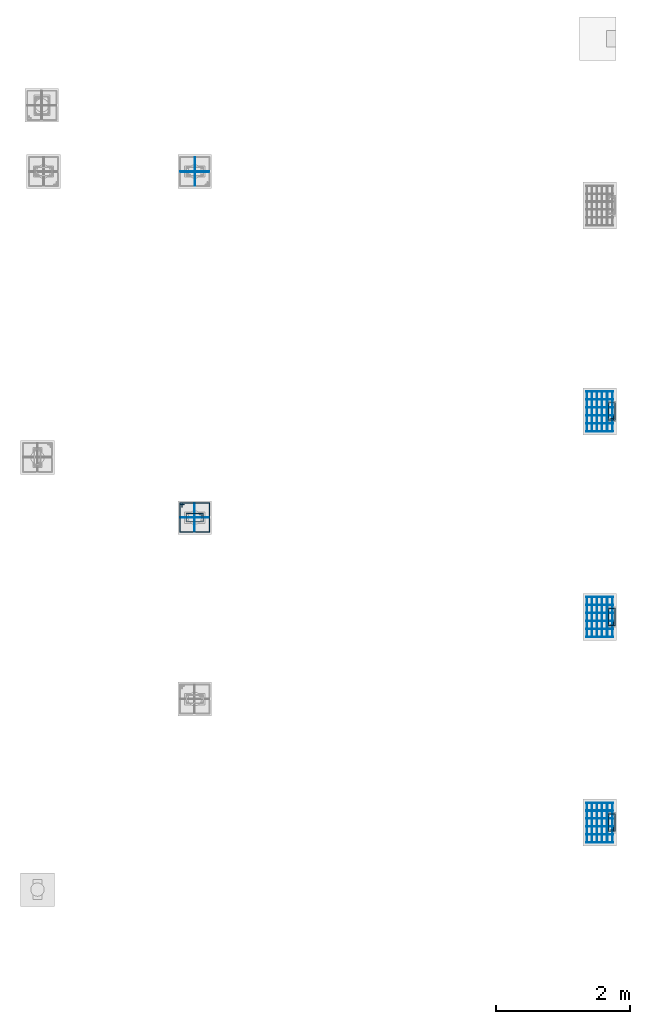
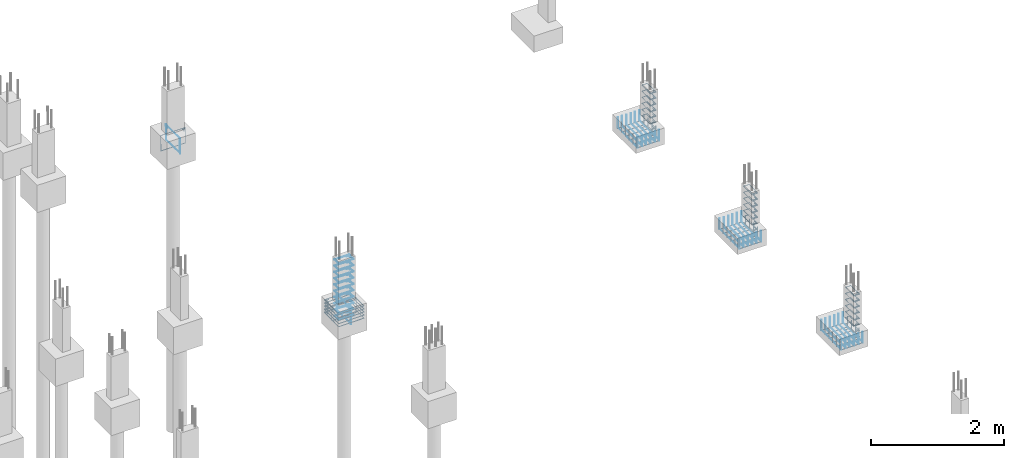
# One storey, part 97 of 119: 79 reinforcing bars.
"""IFC4 building model written with IfcOpenShell, lengths in centimetres."""

from ifc_helpers import new_model, entity, si_unit, derived_unit, frame, origin_with_axes, place, context, project, spatial, source, transform, mapped, element, save


model = new_model("IFC4")

# Units and contexts
model_context = context("Model", 3, precision=1e-05, world=origin_with_axes(), identifier="Body")
ifc_project = project(units=[si_unit("LENGTHUNIT", "METRE", prefix="CENTI"), si_unit("VOLUMEUNIT", "CUBIC_METRE"), si_unit("AREAUNIT", "SQUARE_METRE"), si_unit("POWERUNIT", "WATT"), si_unit("LUMINOUSFLUXUNIT", "LUMEN"), si_unit("ELECTRICCURRENTUNIT", "AMPERE"), si_unit("PRESSUREUNIT", "PASCAL", prefix="KILO"), si_unit("MASSUNIT", "GRAM", prefix="KILO"), si_unit("PLANEANGLEUNIT", "RADIAN"), derived_unit("VOLUMETRICFLOWRATEUNIT", [(si_unit("LENGTHUNIT", "METRE"), 3), (si_unit("TIMEUNIT", "SECOND"), -1)])], contexts=[model_context])

# Site, building, storey
site_placement = place(None, frame((-4000.0, 0.0, 0.0), z_axis=(0.0, 0.0, 1.0), x_axis=(1.0, 0.0, 0.0)))
site = spatial("IfcSite", under=ifc_project, at=site_placement, Name="PADRÃO")
building_placement = place(site_placement, frame((0.0, 0.0, -14.0)))
building = spatial("IfcBuilding", under=site, at=building_placement, Name="CRECHE PRÉ-ESCOLA TIPO 2")
storey_placement = place(building_placement, origin_with_axes())
storey = spatial("IfcBuildingStorey", under=building, at=storey_placement, Name="FUNDAÇÃO", CompositionType="ELEMENT", Elevation=-14.0)

# Reinforcing bars
shared_shape_1 = source(origin_with_axes(), model_context, "Body", "AdvancedSweptSolid", [
    entity("IfcSweptDiskSolid", entity("IfcCompositeCurve", [entity("IfcCompositeCurveSegment", "CONTINUOUS", True, entity("IfcPolyline", [entity("IfcCartesianPoint", [4.25, 21.75, 0.0]), entity("IfcCartesianPoint", [4.25, 27.75, 0.0])])), entity("IfcCompositeCurveSegment", "CONTINUOUS", True, entity("IfcPolyline", [entity("IfcCartesianPoint", [4.25, 27.75, 0.0]), entity("IfcCartesianPoint", [2.25, 27.75, 0.0])])), entity("IfcCompositeCurveSegment", "CONTINUOUS", True, entity("IfcPolyline", [entity("IfcCartesianPoint", [2.25, 27.75, 0.0]), entity("IfcCartesianPoint", [2.25, 2.25, 0.0])])), entity("IfcCompositeCurveSegment", "CONTINUOUS", True, entity("IfcPolyline", [entity("IfcCartesianPoint", [2.25, 2.25, 0.0]), entity("IfcCartesianPoint", [14.75, 2.25, 0.0])])), entity("IfcCompositeCurveSegment", "CONTINUOUS", True, entity("IfcPolyline", [entity("IfcCartesianPoint", [14.75, 2.25, 0.0]), entity("IfcCartesianPoint", [14.75, 27.75, -0.5])])), entity("IfcCompositeCurveSegment", "CONTINUOUS", True, entity("IfcPolyline", [entity("IfcCartesianPoint", [14.75, 27.75, -0.5]), entity("IfcCartesianPoint", [2.25, 27.75, -0.5])])), entity("IfcCompositeCurveSegment", "CONTINUOUS", True, entity("IfcPolyline", [entity("IfcCartesianPoint", [2.25, 27.75, -0.5]), entity("IfcCartesianPoint", [2.25, 25.75, -0.5])])), entity("IfcCompositeCurveSegment", "CONTINUOUS", True, entity("IfcPolyline", [entity("IfcCartesianPoint", [2.25, 25.75, -0.5]), entity("IfcCartesianPoint", [8.25, 25.75, -0.5])]))], False), 0.25),
])
for number, where, z_axis, x_axis, name in (
    (1, (3357.5, 1308.59, -28.75), (0.0, 0.0, 1.0), (0.0, -1.0, 0.0), "P113 - Estribo"),
    (2, (3357.5, 1308.59, -40.25), (0.0, 0.0, 1.0), (0.0, -1.0, 0.0), "P113 - Estribo"),
    (3, (3357.5, 1308.59, -51.75), (0.0, 0.0, 1.0), (0.0, -1.0, 0.0), "P113 - Estribo"),
    (4, (3357.5, 1308.59, -63.25), (0.0, 0.0, 1.0), (0.0, -1.0, 0.0), "P113 - Estribo"),
    (5, (3357.5, 1308.59, -74.75), (0.0, 0.0, 1.0), (0.0, -1.0, 0.0), "P113 - Estribo"),
    (6, (3357.5, 1308.59, -86.25), (0.0, 0.0, 1.0), (0.0, -1.0, 0.0), "P113 - Estribo"),
    (7, (3357.5, 1308.59, -97.75), (0.0, 0.0, 1.0), (0.0, -1.0, 0.0), "P113 - Estribo"),
    (8, (3357.5, 1308.59, -109.25), (0.0, 0.0, 1.0), (0.0, -1.0, 0.0), "P113 - Estribo"),
    (9, (3357.5, 1308.59, -5.75), (0.0, 0.0, 1.0), (0.0, -1.0, 0.0), "P113 - Estribo"),
    (10, (3357.5, 1308.59, -17.25), (0.0, 0.0, 1.0), (0.0, -1.0, 0.0), "P113 - Estribo"),
):
    element("IfcReinforcingBar", number, at=place(storey_placement, frame(where, z_axis=z_axis, x_axis=x_axis)), inside=storey, Name=name, BarLength=0.0, CrossSectionArea=1.9634954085e-05, NominalDiameter=0.5, PredefinedType="MAIN", context=model_context, shape_type="MappedRepresentation", body=[
        mapped(shared_shape_1, transform((0.0, 0.0, 0.0), scale=1.0)),
    ])
shared_shape_2 = source(origin_with_axes(), model_context, "Body", "AdvancedSweptSolid", [
    entity("IfcSweptDiskSolid", entity("IfcCompositeCurve", [entity("IfcCompositeCurveSegment", "CONTINUOUS", True, entity("IfcPolyline", [entity("IfcCartesianPoint", [3353.335, 1315.515, 0.0]), entity("IfcCartesianPoint", [3353.335, 1321.775, 0.0])])), entity("IfcCompositeCurveSegment", "CONTINUOUS", True, entity("IfcPolyline", [entity("IfcCartesianPoint", [3353.335, 1321.775, 0.0]), entity("IfcCartesianPoint", [3350.815, 1321.775, 0.0])])), entity("IfcCompositeCurveSegment", "CONTINUOUS", True, entity("IfcPolyline", [entity("IfcCartesianPoint", [3350.815, 1321.775, 0.0]), entity("IfcCartesianPoint", [3350.815, 1278.405, 0.0])])), entity("IfcCompositeCurveSegment", "CONTINUOUS", True, entity("IfcPolyline", [entity("IfcCartesianPoint", [3350.815, 1278.405, 0.0]), entity("IfcCartesianPoint", [3394.185, 1278.405, 0.63])])), entity("IfcCompositeCurveSegment", "CONTINUOUS", True, entity("IfcPolyline", [entity("IfcCartesianPoint", [3394.185, 1278.405, 0.63]), entity("IfcCartesianPoint", [3394.185, 1321.775, 0.63])])), entity("IfcCompositeCurveSegment", "CONTINUOUS", True, entity("IfcPolyline", [entity("IfcCartesianPoint", [3394.185, 1321.775, 0.63]), entity("IfcCartesianPoint", [3350.815, 1321.775, 0.63])])), entity("IfcCompositeCurveSegment", "CONTINUOUS", True, entity("IfcPolyline", [entity("IfcCartesianPoint", [3350.815, 1321.775, 0.63]), entity("IfcCartesianPoint", [3350.815, 1319.255, 0.63])])), entity("IfcCompositeCurveSegment", "CONTINUOUS", True, entity("IfcPolyline", [entity("IfcCartesianPoint", [3350.815, 1319.255, 0.63]), entity("IfcCartesianPoint", [3357.075, 1319.255, 0.63])]))], False), 0.315),
])
for number, where, z_axis, x_axis, name in (
    (11, (0.0, 0.0, -109.175), (0.0, 0.0, 1.0), (1.0, 0.0, 0.0), "P113 - Blocos (estribos)"),
    (12, (0.0, 0.0, -103.525), (0.0, 0.0, 1.0), (1.0, 0.0, 0.0), "P113 - Blocos (estribos)"),
    (13, (0.0, 0.0, -97.875), (0.0, 0.0, 1.0), (1.0, 0.0, 0.0), "P113 - Blocos (estribos)"),
    (14, (0.0, 0.0, -92.225), (0.0, 0.0, 1.0), (1.0, 0.0, 0.0), "P113 - Blocos (estribos)"),
    (15, (0.0, 0.0, -86.575), (0.0, 0.0, 1.0), (1.0, 0.0, 0.0), "P113 - Blocos (estribos)"),
):
    element("IfcReinforcingBar", number, at=place(storey_placement, frame(where, z_axis=z_axis, x_axis=x_axis)), inside=storey, Name=name, BarLength=0.0, CrossSectionArea=3.1172453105e-05, NominalDiameter=0.63, PredefinedType="MAIN", context=model_context, shape_type="MappedRepresentation", body=[
        mapped(shared_shape_2, transform((0.0, 0.0, 0.0), scale=1.0)),
    ])
shared_shape_3 = source(origin_with_axes(), model_context, "Body", "AdvancedSweptSolid", [
    entity("IfcSweptDiskSolid", entity("IfcCompositeCurve", [entity("IfcCompositeCurveSegment", "CONTINUOUS", True, entity("IfcPolyline", [entity("IfcCartesianPoint", [-15.12, -12.0, 0.0]), entity("IfcCartesianPoint", [-21.12, -12.0, 0.0])])), entity("IfcCompositeCurveSegment", "CONTINUOUS", True, entity("IfcPolyline", [entity("IfcCartesianPoint", [-21.12, -12.0, 0.0]), entity("IfcCartesianPoint", [-21.12, -14.0, 0.0])])), entity("IfcCompositeCurveSegment", "CONTINUOUS", True, entity("IfcPolyline", [entity("IfcCartesianPoint", [-21.12, -14.0, 0.0]), entity("IfcCartesianPoint", [21.12, -14.0, 0.0])])), entity("IfcCompositeCurveSegment", "CONTINUOUS", True, entity("IfcPolyline", [entity("IfcCartesianPoint", [21.12, -14.0, 0.0]), entity("IfcCartesianPoint", [21.12, 14.0, 0.5])])), entity("IfcCompositeCurveSegment", "CONTINUOUS", True, entity("IfcPolyline", [entity("IfcCartesianPoint", [21.12, 14.0, 0.5]), entity("IfcCartesianPoint", [-21.12, 14.0, 0.5])])), entity("IfcCompositeCurveSegment", "CONTINUOUS", True, entity("IfcPolyline", [entity("IfcCartesianPoint", [-21.12, 14.0, 0.5]), entity("IfcCartesianPoint", [-21.12, -14.0, 0.5])])), entity("IfcCompositeCurveSegment", "CONTINUOUS", True, entity("IfcPolyline", [entity("IfcCartesianPoint", [-21.12, -14.0, 0.5]), entity("IfcCartesianPoint", [-19.12, -14.0, 0.5])])), entity("IfcCompositeCurveSegment", "CONTINUOUS", True, entity("IfcPolyline", [entity("IfcCartesianPoint", [-19.12, -14.0, 0.5]), entity("IfcCartesianPoint", [-19.12, -8.0, 0.5])]))], False), 0.25),
])
reinforcing_bar_1_placement = place(storey_placement, frame((3372.5, 1300.09, -97.75), z_axis=(0.0, 1.0, 0.0), x_axis=(1.0, 0.0, 0.0)))
element("IfcReinforcingBar", 16, at=reinforcing_bar_1_placement, inside=storey, Name="P113 - Blocos (estribos)", BarLength=0.0, CrossSectionArea=1.9634954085e-05, NominalDiameter=0.5, PredefinedType="MAIN", context=model_context, shape_type="MappedRepresentation", body=[
    mapped(shared_shape_3, transform((0.0, 0.0, 0.0), scale=1.0)),
])
shared_shape_4 = source(origin_with_axes(), model_context, "Body", "AdvancedSweptSolid", [
    entity("IfcSweptDiskSolid", entity("IfcCompositeCurve", [entity("IfcCompositeCurveSegment", "CONTINUOUS", True, entity("IfcPolyline", [entity("IfcCartesianPoint", [-15.12, -12.0, 0.0]), entity("IfcCartesianPoint", [-21.12, -12.0, 0.0])])), entity("IfcCompositeCurveSegment", "CONTINUOUS", True, entity("IfcPolyline", [entity("IfcCartesianPoint", [-21.12, -12.0, 0.0]), entity("IfcCartesianPoint", [-21.12, -14.0, 0.0])])), entity("IfcCompositeCurveSegment", "CONTINUOUS", True, entity("IfcPolyline", [entity("IfcCartesianPoint", [-21.12, -14.0, 0.0]), entity("IfcCartesianPoint", [21.12, -14.0, 0.0])])), entity("IfcCompositeCurveSegment", "CONTINUOUS", True, entity("IfcPolyline", [entity("IfcCartesianPoint", [21.12, -14.0, 0.0]), entity("IfcCartesianPoint", [21.12, 14.0, 0.5])])), entity("IfcCompositeCurveSegment", "CONTINUOUS", True, entity("IfcPolyline", [entity("IfcCartesianPoint", [21.12, 14.0, 0.5]), entity("IfcCartesianPoint", [-21.12, 14.0, 0.5])])), entity("IfcCompositeCurveSegment", "CONTINUOUS", True, entity("IfcPolyline", [entity("IfcCartesianPoint", [-21.12, 14.0, 0.5]), entity("IfcCartesianPoint", [-21.12, -14.0, 0.5])])), entity("IfcCompositeCurveSegment", "CONTINUOUS", True, entity("IfcPolyline", [entity("IfcCartesianPoint", [-21.12, -14.0, 0.5]), entity("IfcCartesianPoint", [-19.12, -14.0, 0.5])])), entity("IfcCompositeCurveSegment", "CONTINUOUS", True, entity("IfcPolyline", [entity("IfcCartesianPoint", [-19.12, -14.0, 0.5]), entity("IfcCartesianPoint", [-19.12, -8.0, 0.5])]))], False), 0.25),
])
reinforcing_bar_2_placement = place(storey_placement, frame((3372.5, 1300.09, -97.75), z_axis=(-1.0, 0.0, 0.0), x_axis=(0.0, 1.0, 0.0)))
element("IfcReinforcingBar", 17, at=reinforcing_bar_2_placement, inside=storey, Name="P113 - Blocos (estribos)", BarLength=0.0, CrossSectionArea=1.9634954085e-05, NominalDiameter=0.5, PredefinedType="MAIN", context=model_context, shape_type="MappedRepresentation", body=[
    mapped(shared_shape_4, transform((0.0, 0.0, 0.0), scale=1.0)),
])
shared_shape_5 = source(origin_with_axes(), model_context, "Body", "AdvancedSweptSolid", [
    entity("IfcSweptDiskSolid", entity("IfcCompositeCurve", [entity("IfcCompositeCurveSegment", "CONTINUOUS", True, entity("IfcPolyline", [entity("IfcCartesianPoint", [4.25, 21.75, 0.0]), entity("IfcCartesianPoint", [4.25, 27.75, 0.0])])), entity("IfcCompositeCurveSegment", "CONTINUOUS", True, entity("IfcPolyline", [entity("IfcCartesianPoint", [4.25, 27.75, 0.0]), entity("IfcCartesianPoint", [2.25, 27.75, 0.0])])), entity("IfcCompositeCurveSegment", "CONTINUOUS", True, entity("IfcPolyline", [entity("IfcCartesianPoint", [2.25, 27.75, 0.0]), entity("IfcCartesianPoint", [2.25, 2.25, 0.0])])), entity("IfcCompositeCurveSegment", "CONTINUOUS", True, entity("IfcPolyline", [entity("IfcCartesianPoint", [2.25, 2.25, 0.0]), entity("IfcCartesianPoint", [11.75, 2.25, 0.0])])), entity("IfcCompositeCurveSegment", "CONTINUOUS", True, entity("IfcPolyline", [entity("IfcCartesianPoint", [11.75, 2.25, 0.0]), entity("IfcCartesianPoint", [11.75, 27.75, -0.5])])), entity("IfcCompositeCurveSegment", "CONTINUOUS", True, entity("IfcPolyline", [entity("IfcCartesianPoint", [11.75, 27.75, -0.5]), entity("IfcCartesianPoint", [2.25, 27.75, -0.5])])), entity("IfcCompositeCurveSegment", "CONTINUOUS", True, entity("IfcPolyline", [entity("IfcCartesianPoint", [2.25, 27.75, -0.5]), entity("IfcCartesianPoint", [2.25, 25.75, -0.5])])), entity("IfcCompositeCurveSegment", "CONTINUOUS", True, entity("IfcPolyline", [entity("IfcCartesianPoint", [2.25, 25.75, -0.5]), entity("IfcCartesianPoint", [8.25, 25.75, -0.5])]))], False), 0.25),
])
for number, where, z_axis, x_axis, name in (
    (18, (4000.0, 1473.11, -5.5625), (0.0, 0.0, 1.0), (-1.0, 0.0, 0.0), "P103 - Estribo"),
    (19, (4000.0, 1473.11, -16.6875), (0.0, 0.0, 1.0), (-1.0, 0.0, 0.0), "P103 - Estribo"),
    (20, (4000.0, 1473.11, -27.8125), (0.0, 0.0, 1.0), (-1.0, 0.0, 0.0), "P103 - Estribo"),
    (21, (4000.0, 1473.11, -38.9375), (0.0, 0.0, 1.0), (-1.0, 0.0, 0.0), "P103 - Estribo"),
    (22, (4000.0, 1473.11, -50.0625), (0.0, 0.0, 1.0), (-1.0, 0.0, 0.0), "P103 - Estribo"),
    (23, (4000.0, 1473.11, -61.1875), (0.0, 0.0, 1.0), (-1.0, 0.0, 0.0), "P103 - Estribo"),
    (24, (4000.0, 1473.11, -72.3125), (0.0, 0.0, 1.0), (-1.0, 0.0, 0.0), "P103 - Estribo"),
    (25, (4000.0, 1473.11, -83.4375), (0.0, 0.0, 1.0), (-1.0, 0.0, 0.0), "P103 - Estribo"),
):
    element("IfcReinforcingBar", number, at=place(storey_placement, frame(where, z_axis=z_axis, x_axis=x_axis)), inside=storey, Name=name, BarLength=0.0, CrossSectionArea=1.9634954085e-05, NominalDiameter=0.5, PredefinedType="MAIN", context=model_context, shape_type="MappedRepresentation", body=[
        mapped(shared_shape_5, transform((0.0, 0.0, 0.0), scale=1.0)),
    ])
shared_shape_6 = source(origin_with_axes(), model_context, "Body", "AdvancedSweptSolid", [
    entity("IfcSweptDiskSolid", entity("IfcCompositeCurve", [entity("IfcCompositeCurveSegment", "CONTINUOUS", True, entity("IfcPolyline", [entity("IfcCartesianPoint", [0.0, 0.0, 19.6]), entity("IfcCartesianPoint", [0.0, 0.0, 0.0])])), entity("IfcCompositeCurveSegment", "CONTINUOUS", True, entity("IfcPolyline", [entity("IfcCartesianPoint", [0.0, 0.0, 0.0]), entity("IfcCartesianPoint", [39.2, 0.0, 0.0])])), entity("IfcCompositeCurveSegment", "CONTINUOUS", True, entity("IfcPolyline", [entity("IfcCartesianPoint", [39.2, 0.0, 0.0]), entity("IfcCartesianPoint", [39.2, 0.0, 19.6])]))], False), 0.4),
])
for number, where, z_axis, x_axis, name in (
    (26, (3994.6, 1428.51, -83.6), (0.0, 0.0, 1.0), (-1.0, 0.0, 0.0), "P103 - Sapatas (inferior)"),
    (27, (3994.6, 1487.71, -83.6), (0.0, 0.0, 1.0), (-1.0, 0.0, 0.0), "P103 - Sapatas (inferior)"),
    (28, (3994.6, 1475.87, -83.6), (0.0, 0.0, 1.0), (-1.0, 0.0, 0.0), "P103 - Sapatas (inferior)"),
    (29, (3994.6, 1464.03, -83.6), (0.0, 0.0, 1.0), (-1.0, 0.0, 0.0), "P103 - Sapatas (inferior)"),
    (30, (3994.6, 1452.19, -83.6), (0.0, 0.0, 1.0), (-1.0, 0.0, 0.0), "P103 - Sapatas (inferior)"),
    (31, (3994.6, 1440.35, -83.6), (0.0, 0.0, 1.0), (-1.0, 0.0, 0.0), "P103 - Sapatas (inferior)"),
):
    element("IfcReinforcingBar", number, at=place(storey_placement, frame(where, z_axis=z_axis, x_axis=x_axis)), inside=storey, Name=name, BarLength=0.0, CrossSectionArea=5.0265482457e-05, NominalDiameter=0.8, PredefinedType="MAIN", context=model_context, shape_type="MappedRepresentation", body=[
        mapped(shared_shape_6, transform((0.0, 0.0, 0.0), scale=1.0)),
    ])
shared_shape_7 = source(origin_with_axes(), model_context, "Body", "AdvancedSweptSolid", [
    entity("IfcSweptDiskSolid", entity("IfcCompositeCurve", [entity("IfcCompositeCurveSegment", "CONTINUOUS", True, entity("IfcPolyline", [entity("IfcCartesianPoint", [0.0, 0.0, 18.8]), entity("IfcCartesianPoint", [0.0, 0.0, 0.0])])), entity("IfcCompositeCurveSegment", "CONTINUOUS", True, entity("IfcPolyline", [entity("IfcCartesianPoint", [0.0, 0.0, 0.0]), entity("IfcCartesianPoint", [0.0, 59.2, 0.0])])), entity("IfcCompositeCurveSegment", "CONTINUOUS", True, entity("IfcPolyline", [entity("IfcCartesianPoint", [0.0, 59.2, 0.0]), entity("IfcCartesianPoint", [0.0, 59.2, 18.8])]))], False), 0.4),
])
for number, where, z_axis, x_axis, name in (
    (32, (3993.8, 1487.71, -82.8), (0.0, 0.0, 1.0), (-1.0, 0.0, 0.0), "P103 - Sapatas (inferior)"),
    (33, (3986.28, 1487.71, -82.8), (0.0, 0.0, 1.0), (-1.0, 0.0, 0.0), "P103 - Sapatas (inferior)"),
    (34, (3978.76, 1487.71, -82.8), (0.0, 0.0, 1.0), (-1.0, 0.0, 0.0), "P103 - Sapatas (inferior)"),
    (35, (3971.24, 1487.71, -82.8), (0.0, 0.0, 1.0), (-1.0, 0.0, 0.0), "P103 - Sapatas (inferior)"),
    (36, (3963.72, 1487.71, -82.8), (0.0, 0.0, 1.0), (-1.0, 0.0, 0.0), "P103 - Sapatas (inferior)"),
    (37, (3956.2, 1487.71, -82.8), (0.0, 0.0, 1.0), (-1.0, 0.0, 0.0), "P103 - Sapatas (inferior)"),
):
    element("IfcReinforcingBar", number, at=place(storey_placement, frame(where, z_axis=z_axis, x_axis=x_axis)), inside=storey, Name=name, BarLength=0.0, CrossSectionArea=5.0265482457e-05, NominalDiameter=0.8, PredefinedType="MAIN", context=model_context, shape_type="MappedRepresentation", body=[
        mapped(shared_shape_7, transform((0.0, 0.0, 0.0), scale=1.0)),
    ])
shared_shape_8 = source(origin_with_axes(), model_context, "Body", "AdvancedSweptSolid", [
    entity("IfcSweptDiskSolid", entity("IfcCompositeCurve", [entity("IfcCompositeCurveSegment", "CONTINUOUS", True, entity("IfcPolyline", [entity("IfcCartesianPoint", [4.25, 21.75, 0.0]), entity("IfcCartesianPoint", [4.25, 27.75, 0.0])])), entity("IfcCompositeCurveSegment", "CONTINUOUS", True, entity("IfcPolyline", [entity("IfcCartesianPoint", [4.25, 27.75, 0.0]), entity("IfcCartesianPoint", [2.25, 27.75, 0.0])])), entity("IfcCompositeCurveSegment", "CONTINUOUS", True, entity("IfcPolyline", [entity("IfcCartesianPoint", [2.25, 27.75, 0.0]), entity("IfcCartesianPoint", [2.25, 2.25, 0.0])])), entity("IfcCompositeCurveSegment", "CONTINUOUS", True, entity("IfcPolyline", [entity("IfcCartesianPoint", [2.25, 2.25, 0.0]), entity("IfcCartesianPoint", [11.75, 2.25, 0.0])])), entity("IfcCompositeCurveSegment", "CONTINUOUS", True, entity("IfcPolyline", [entity("IfcCartesianPoint", [11.75, 2.25, 0.0]), entity("IfcCartesianPoint", [11.75, 27.75, -0.5])])), entity("IfcCompositeCurveSegment", "CONTINUOUS", True, entity("IfcPolyline", [entity("IfcCartesianPoint", [11.75, 27.75, -0.5]), entity("IfcCartesianPoint", [2.25, 27.75, -0.5])])), entity("IfcCompositeCurveSegment", "CONTINUOUS", True, entity("IfcPolyline", [entity("IfcCartesianPoint", [2.25, 27.75, -0.5]), entity("IfcCartesianPoint", [2.25, 25.75, -0.5])])), entity("IfcCompositeCurveSegment", "CONTINUOUS", True, entity("IfcPolyline", [entity("IfcCartesianPoint", [2.25, 25.75, -0.5]), entity("IfcCartesianPoint", [8.25, 25.75, -0.5])]))], False), 0.25),
])
for number, where, z_axis, x_axis, name in (
    (38, (4000.0, 1167.11, -27.8125), (0.0, 0.0, 1.0), (-1.0, 0.0, 0.0), "P115 - Estribo"),
    (39, (4000.0, 1167.11, -83.4375), (0.0, 0.0, 1.0), (-1.0, 0.0, 0.0), "P115 - Estribo"),
    (40, (4000.0, 1167.11, -72.3125), (0.0, 0.0, 1.0), (-1.0, 0.0, 0.0), "P115 - Estribo"),
    (41, (4000.0, 1167.11, -5.5625), (0.0, 0.0, 1.0), (-1.0, 0.0, 0.0), "P115 - Estribo"),
    (42, (4000.0, 1167.11, -16.6875), (0.0, 0.0, 1.0), (-1.0, 0.0, 0.0), "P115 - Estribo"),
    (43, (4000.0, 1167.11, -61.1875), (0.0, 0.0, 1.0), (-1.0, 0.0, 0.0), "P115 - Estribo"),
    (44, (4000.0, 1167.11, -50.0625), (0.0, 0.0, 1.0), (-1.0, 0.0, 0.0), "P115 - Estribo"),
    (45, (4000.0, 1167.11, -38.9375), (0.0, 0.0, 1.0), (-1.0, 0.0, 0.0), "P115 - Estribo"),
):
    element("IfcReinforcingBar", number, at=place(storey_placement, frame(where, z_axis=z_axis, x_axis=x_axis)), inside=storey, Name=name, BarLength=0.0, CrossSectionArea=1.9634954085e-05, NominalDiameter=0.5, PredefinedType="MAIN", context=model_context, shape_type="MappedRepresentation", body=[
        mapped(shared_shape_8, transform((0.0, 0.0, 0.0), scale=1.0)),
    ])
shared_shape_9 = source(origin_with_axes(), model_context, "Body", "AdvancedSweptSolid", [
    entity("IfcSweptDiskSolid", entity("IfcCompositeCurve", [entity("IfcCompositeCurveSegment", "CONTINUOUS", True, entity("IfcPolyline", [entity("IfcCartesianPoint", [0.0, 0.0, 19.6]), entity("IfcCartesianPoint", [0.0, 0.0, 0.0])])), entity("IfcCompositeCurveSegment", "CONTINUOUS", True, entity("IfcPolyline", [entity("IfcCartesianPoint", [0.0, 0.0, 0.0]), entity("IfcCartesianPoint", [39.2, 0.0, 0.0])])), entity("IfcCompositeCurveSegment", "CONTINUOUS", True, entity("IfcPolyline", [entity("IfcCartesianPoint", [39.2, 0.0, 0.0]), entity("IfcCartesianPoint", [39.2, 0.0, 19.6])]))], False), 0.4),
])
for number, where, z_axis, x_axis, name in (
    (46, (3994.6, 1181.71, -83.6), (0.0, 0.0, 1.0), (-1.0, 0.0, 0.0), "P115 - Sapatas (inferior)"),
    (47, (3994.6, 1122.51, -83.6), (0.0, 0.0, 1.0), (-1.0, 0.0, 0.0), "P115 - Sapatas (inferior)"),
    (48, (3994.6, 1134.35, -83.6), (0.0, 0.0, 1.0), (-1.0, 0.0, 0.0), "P115 - Sapatas (inferior)"),
    (49, (3994.6, 1146.19, -83.6), (0.0, 0.0, 1.0), (-1.0, 0.0, 0.0), "P115 - Sapatas (inferior)"),
    (50, (3994.6, 1158.03, -83.6), (0.0, 0.0, 1.0), (-1.0, 0.0, 0.0), "P115 - Sapatas (inferior)"),
    (51, (3994.6, 1169.87, -83.6), (0.0, 0.0, 1.0), (-1.0, 0.0, 0.0), "P115 - Sapatas (inferior)"),
):
    element("IfcReinforcingBar", number, at=place(storey_placement, frame(where, z_axis=z_axis, x_axis=x_axis)), inside=storey, Name=name, BarLength=0.0, CrossSectionArea=5.0265482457e-05, NominalDiameter=0.8, PredefinedType="MAIN", context=model_context, shape_type="MappedRepresentation", body=[
        mapped(shared_shape_9, transform((0.0, 0.0, 0.0), scale=1.0)),
    ])
shared_shape_10 = source(origin_with_axes(), model_context, "Body", "AdvancedSweptSolid", [
    entity("IfcSweptDiskSolid", entity("IfcCompositeCurve", [entity("IfcCompositeCurveSegment", "CONTINUOUS", True, entity("IfcPolyline", [entity("IfcCartesianPoint", [0.0, 0.0, 18.8]), entity("IfcCartesianPoint", [0.0, 0.0, 0.0])])), entity("IfcCompositeCurveSegment", "CONTINUOUS", True, entity("IfcPolyline", [entity("IfcCartesianPoint", [0.0, 0.0, 0.0]), entity("IfcCartesianPoint", [0.0, 59.2, 0.0])])), entity("IfcCompositeCurveSegment", "CONTINUOUS", True, entity("IfcPolyline", [entity("IfcCartesianPoint", [0.0, 59.2, 0.0]), entity("IfcCartesianPoint", [0.0, 59.2, 18.8])]))], False), 0.4),
])
for number, where, z_axis, x_axis, name in (
    (52, (3986.28, 1181.71, -82.8), (0.0, 0.0, 1.0), (-1.0, 0.0, 0.0), "P115 - Sapatas (inferior)"),
    (53, (3956.2, 1181.71, -82.8), (0.0, 0.0, 1.0), (-1.0, 0.0, 0.0), "P115 - Sapatas (inferior)"),
    (54, (3993.8, 1181.71, -82.8), (0.0, 0.0, 1.0), (-1.0, 0.0, 0.0), "P115 - Sapatas (inferior)"),
    (55, (3971.24, 1181.71, -82.8), (0.0, 0.0, 1.0), (-1.0, 0.0, 0.0), "P115 - Sapatas (inferior)"),
    (56, (3978.76, 1181.71, -82.8), (0.0, 0.0, 1.0), (-1.0, 0.0, 0.0), "P115 - Sapatas (inferior)"),
    (57, (3963.72, 1181.71, -82.8), (0.0, 0.0, 1.0), (-1.0, 0.0, 0.0), "P115 - Sapatas (inferior)"),
):
    element("IfcReinforcingBar", number, at=place(storey_placement, frame(where, z_axis=z_axis, x_axis=x_axis)), inside=storey, Name=name, BarLength=0.0, CrossSectionArea=5.0265482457e-05, NominalDiameter=0.8, PredefinedType="MAIN", context=model_context, shape_type="MappedRepresentation", body=[
        mapped(shared_shape_10, transform((0.0, 0.0, 0.0), scale=1.0)),
    ])
shared_shape_11 = source(origin_with_axes(), model_context, "Body", "AdvancedSweptSolid", [
    entity("IfcSweptDiskSolid", entity("IfcCompositeCurve", [entity("IfcCompositeCurveSegment", "CONTINUOUS", True, entity("IfcPolyline", [entity("IfcCartesianPoint", [4.25, 21.75, 0.0]), entity("IfcCartesianPoint", [4.25, 27.75, 0.0])])), entity("IfcCompositeCurveSegment", "CONTINUOUS", True, entity("IfcPolyline", [entity("IfcCartesianPoint", [4.25, 27.75, 0.0]), entity("IfcCartesianPoint", [2.25, 27.75, 0.0])])), entity("IfcCompositeCurveSegment", "CONTINUOUS", True, entity("IfcPolyline", [entity("IfcCartesianPoint", [2.25, 27.75, 0.0]), entity("IfcCartesianPoint", [2.25, 2.25, 0.0])])), entity("IfcCompositeCurveSegment", "CONTINUOUS", True, entity("IfcPolyline", [entity("IfcCartesianPoint", [2.25, 2.25, 0.0]), entity("IfcCartesianPoint", [11.75, 2.25, 0.0])])), entity("IfcCompositeCurveSegment", "CONTINUOUS", True, entity("IfcPolyline", [entity("IfcCartesianPoint", [11.75, 2.25, 0.0]), entity("IfcCartesianPoint", [11.75, 27.75, -0.5])])), entity("IfcCompositeCurveSegment", "CONTINUOUS", True, entity("IfcPolyline", [entity("IfcCartesianPoint", [11.75, 27.75, -0.5]), entity("IfcCartesianPoint", [2.25, 27.75, -0.5])])), entity("IfcCompositeCurveSegment", "CONTINUOUS", True, entity("IfcPolyline", [entity("IfcCartesianPoint", [2.25, 27.75, -0.5]), entity("IfcCartesianPoint", [2.25, 25.75, -0.5])])), entity("IfcCompositeCurveSegment", "CONTINUOUS", True, entity("IfcPolyline", [entity("IfcCartesianPoint", [2.25, 25.75, -0.5]), entity("IfcCartesianPoint", [8.25, 25.75, -0.5])]))], False), 0.25),
])
for number, where, z_axis, x_axis, name in (
    (58, (4000.0, 861.11, -16.6875), (0.0, 0.0, 1.0), (-1.0, 0.0, 0.0), "P130 - Estribo"),
    (59, (4000.0, 861.11, -27.8125), (0.0, 0.0, 1.0), (-1.0, 0.0, 0.0), "P130 - Estribo"),
    (60, (4000.0, 861.11, -38.9375), (0.0, 0.0, 1.0), (-1.0, 0.0, 0.0), "P130 - Estribo"),
    (61, (4000.0, 861.11, -50.0625), (0.0, 0.0, 1.0), (-1.0, 0.0, 0.0), "P130 - Estribo"),
    (62, (4000.0, 861.11, -61.1875), (0.0, 0.0, 1.0), (-1.0, 0.0, 0.0), "P130 - Estribo"),
    (63, (4000.0, 861.11, -5.5625), (0.0, 0.0, 1.0), (-1.0, 0.0, 0.0), "P130 - Estribo"),
    (64, (4000.0, 861.11, -72.3125), (0.0, 0.0, 1.0), (-1.0, 0.0, 0.0), "P130 - Estribo"),
    (65, (4000.0, 861.11, -83.4375), (0.0, 0.0, 1.0), (-1.0, 0.0, 0.0), "P130 - Estribo"),
):
    element("IfcReinforcingBar", number, at=place(storey_placement, frame(where, z_axis=z_axis, x_axis=x_axis)), inside=storey, Name=name, BarLength=0.0, CrossSectionArea=1.9634954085e-05, NominalDiameter=0.5, PredefinedType="MAIN", context=model_context, shape_type="MappedRepresentation", body=[
        mapped(shared_shape_11, transform((0.0, 0.0, 0.0), scale=1.0)),
    ])
shared_shape_12 = source(origin_with_axes(), model_context, "Body", "AdvancedSweptSolid", [
    entity("IfcSweptDiskSolid", entity("IfcCompositeCurve", [entity("IfcCompositeCurveSegment", "CONTINUOUS", True, entity("IfcPolyline", [entity("IfcCartesianPoint", [0.0, 0.0, 19.6]), entity("IfcCartesianPoint", [0.0, 0.0, 0.0])])), entity("IfcCompositeCurveSegment", "CONTINUOUS", True, entity("IfcPolyline", [entity("IfcCartesianPoint", [0.0, 0.0, 0.0]), entity("IfcCartesianPoint", [39.2, 0.0, 0.0])])), entity("IfcCompositeCurveSegment", "CONTINUOUS", True, entity("IfcPolyline", [entity("IfcCartesianPoint", [39.2, 0.0, 0.0]), entity("IfcCartesianPoint", [39.2, 0.0, 19.6])]))], False), 0.4),
])
for number, where, z_axis, x_axis, name in (
    (66, (3994.6, 816.51, -83.6), (0.0, 0.0, 1.0), (-1.0, 0.0, 0.0), "P130 - Sapatas (inferior)"),
    (67, (3994.6, 840.19, -83.6), (0.0, 0.0, 1.0), (-1.0, 0.0, 0.0), "P130 - Sapatas (inferior)"),
    (68, (3994.6, 863.87, -83.6), (0.0, 0.0, 1.0), (-1.0, 0.0, 0.0), "P130 - Sapatas (inferior)"),
    (69, (3994.6, 875.71, -83.6), (0.0, 0.0, 1.0), (-1.0, 0.0, 0.0), "P130 - Sapatas (inferior)"),
    (70, (3994.6, 828.35, -83.6), (0.0, 0.0, 1.0), (-1.0, 0.0, 0.0), "P130 - Sapatas (inferior)"),
    (71, (3994.6, 852.03, -83.6), (0.0, 0.0, 1.0), (-1.0, 0.0, 0.0), "P130 - Sapatas (inferior)"),
):
    element("IfcReinforcingBar", number, at=place(storey_placement, frame(where, z_axis=z_axis, x_axis=x_axis)), inside=storey, Name=name, BarLength=0.0, CrossSectionArea=5.0265482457e-05, NominalDiameter=0.8, PredefinedType="MAIN", context=model_context, shape_type="MappedRepresentation", body=[
        mapped(shared_shape_12, transform((0.0, 0.0, 0.0), scale=1.0)),
    ])
shared_shape_13 = source(origin_with_axes(), model_context, "Body", "AdvancedSweptSolid", [
    entity("IfcSweptDiskSolid", entity("IfcCompositeCurve", [entity("IfcCompositeCurveSegment", "CONTINUOUS", True, entity("IfcPolyline", [entity("IfcCartesianPoint", [0.0, 0.0, 18.8]), entity("IfcCartesianPoint", [0.0, 0.0, 0.0])])), entity("IfcCompositeCurveSegment", "CONTINUOUS", True, entity("IfcPolyline", [entity("IfcCartesianPoint", [0.0, 0.0, 0.0]), entity("IfcCartesianPoint", [0.0, 59.2, 0.0])])), entity("IfcCompositeCurveSegment", "CONTINUOUS", True, entity("IfcPolyline", [entity("IfcCartesianPoint", [0.0, 59.2, 0.0]), entity("IfcCartesianPoint", [0.0, 59.2, 18.8])]))], False), 0.4),
])
for number, where, z_axis, x_axis, name in (
    (72, (3963.72, 875.71, -82.8), (0.0, 0.0, 1.0), (-1.0, 0.0, 0.0), "P130 - Sapatas (inferior)"),
    (73, (3956.2, 875.71, -82.8), (0.0, 0.0, 1.0), (-1.0, 0.0, 0.0), "P130 - Sapatas (inferior)"),
    (74, (3971.24, 875.71, -82.8), (0.0, 0.0, 1.0), (-1.0, 0.0, 0.0), "P130 - Sapatas (inferior)"),
    (75, (3978.76, 875.71, -82.8), (0.0, 0.0, 1.0), (-1.0, 0.0, 0.0), "P130 - Sapatas (inferior)"),
    (76, (3986.28, 875.71, -82.8), (0.0, 0.0, 1.0), (-1.0, 0.0, 0.0), "P130 - Sapatas (inferior)"),
    (77, (3993.8, 875.71, -82.8), (0.0, 0.0, 1.0), (-1.0, 0.0, 0.0), "P130 - Sapatas (inferior)"),
):
    element("IfcReinforcingBar", number, at=place(storey_placement, frame(where, z_axis=z_axis, x_axis=x_axis)), inside=storey, Name=name, BarLength=0.0, CrossSectionArea=5.0265482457e-05, NominalDiameter=0.8, PredefinedType="MAIN", context=model_context, shape_type="MappedRepresentation", body=[
        mapped(shared_shape_13, transform((0.0, 0.0, 0.0), scale=1.0)),
    ])
shared_shape_14 = source(origin_with_axes(), model_context, "Body", "AdvancedSweptSolid", [
    entity("IfcSweptDiskSolid", entity("IfcCompositeCurve", [entity("IfcCompositeCurveSegment", "CONTINUOUS", True, entity("IfcPolyline", [entity("IfcCartesianPoint", [-15.12, -12.0, 0.0]), entity("IfcCartesianPoint", [-21.12, -12.0, 0.0])])), entity("IfcCompositeCurveSegment", "CONTINUOUS", True, entity("IfcPolyline", [entity("IfcCartesianPoint", [-21.12, -12.0, 0.0]), entity("IfcCartesianPoint", [-21.12, -14.0, 0.0])])), entity("IfcCompositeCurveSegment", "CONTINUOUS", True, entity("IfcPolyline", [entity("IfcCartesianPoint", [-21.12, -14.0, 0.0]), entity("IfcCartesianPoint", [21.12, -14.0, 0.0])])), entity("IfcCompositeCurveSegment", "CONTINUOUS", True, entity("IfcPolyline", [entity("IfcCartesianPoint", [21.12, -14.0, 0.0]), entity("IfcCartesianPoint", [21.12, 14.0, 0.5])])), entity("IfcCompositeCurveSegment", "CONTINUOUS", True, entity("IfcPolyline", [entity("IfcCartesianPoint", [21.12, 14.0, 0.5]), entity("IfcCartesianPoint", [-21.12, 14.0, 0.5])])), entity("IfcCompositeCurveSegment", "CONTINUOUS", True, entity("IfcPolyline", [entity("IfcCartesianPoint", [-21.12, 14.0, 0.5]), entity("IfcCartesianPoint", [-21.12, -14.0, 0.5])])), entity("IfcCompositeCurveSegment", "CONTINUOUS", True, entity("IfcPolyline", [entity("IfcCartesianPoint", [-21.12, -14.0, 0.5]), entity("IfcCartesianPoint", [-19.12, -14.0, 0.5])])), entity("IfcCompositeCurveSegment", "CONTINUOUS", True, entity("IfcPolyline", [entity("IfcCartesianPoint", [-19.12, -14.0, 0.5]), entity("IfcCartesianPoint", [-19.12, -8.0, 0.5])]))], False), 0.25),
])
reinforcing_bar_3_placement = place(storey_placement, frame((3372.5, 1815.02, -97.75), z_axis=(0.0, -1.0, 0.0), x_axis=(-1.0, 0.0, 0.0)))
element("IfcReinforcingBar", 78, at=reinforcing_bar_3_placement, inside=storey, Name="P97 - Blocos (estribos)", BarLength=0.0, CrossSectionArea=1.9634954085e-05, NominalDiameter=0.5, PredefinedType="MAIN", context=model_context, shape_type="MappedRepresentation", body=[
    mapped(shared_shape_14, transform((0.0, 0.0, 0.0), scale=1.0)),
])
shared_shape_15 = source(origin_with_axes(), model_context, "Body", "AdvancedSweptSolid", [
    entity("IfcSweptDiskSolid", entity("IfcCompositeCurve", [entity("IfcCompositeCurveSegment", "CONTINUOUS", True, entity("IfcPolyline", [entity("IfcCartesianPoint", [-15.12, -12.0, 0.0]), entity("IfcCartesianPoint", [-21.12, -12.0, 0.0])])), entity("IfcCompositeCurveSegment", "CONTINUOUS", True, entity("IfcPolyline", [entity("IfcCartesianPoint", [-21.12, -12.0, 0.0]), entity("IfcCartesianPoint", [-21.12, -14.0, 0.0])])), entity("IfcCompositeCurveSegment", "CONTINUOUS", True, entity("IfcPolyline", [entity("IfcCartesianPoint", [-21.12, -14.0, 0.0]), entity("IfcCartesianPoint", [21.12, -14.0, 0.0])])), entity("IfcCompositeCurveSegment", "CONTINUOUS", True, entity("IfcPolyline", [entity("IfcCartesianPoint", [21.12, -14.0, 0.0]), entity("IfcCartesianPoint", [21.12, 14.0, 0.5])])), entity("IfcCompositeCurveSegment", "CONTINUOUS", True, entity("IfcPolyline", [entity("IfcCartesianPoint", [21.12, 14.0, 0.5]), entity("IfcCartesianPoint", [-21.12, 14.0, 0.5])])), entity("IfcCompositeCurveSegment", "CONTINUOUS", True, entity("IfcPolyline", [entity("IfcCartesianPoint", [-21.12, 14.0, 0.5]), entity("IfcCartesianPoint", [-21.12, -14.0, 0.5])])), entity("IfcCompositeCurveSegment", "CONTINUOUS", True, entity("IfcPolyline", [entity("IfcCartesianPoint", [-21.12, -14.0, 0.5]), entity("IfcCartesianPoint", [-19.12, -14.0, 0.5])])), entity("IfcCompositeCurveSegment", "CONTINUOUS", True, entity("IfcPolyline", [entity("IfcCartesianPoint", [-19.12, -14.0, 0.5]), entity("IfcCartesianPoint", [-19.12, -8.0, 0.5])]))], False), 0.25),
])
reinforcing_bar_4_placement = place(storey_placement, frame((3372.5, 1815.02, -97.75), z_axis=(1.0, 0.0, 0.0), x_axis=(0.0, -1.0, 0.0)))
element("IfcReinforcingBar", 79, at=reinforcing_bar_4_placement, inside=storey, Name="P97 - Blocos (estribos)", BarLength=0.0, CrossSectionArea=1.9634954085e-05, NominalDiameter=0.5, PredefinedType="MAIN", context=model_context, shape_type="MappedRepresentation", body=[
    mapped(shared_shape_15, transform((0.0, 0.0, 0.0), scale=1.0)),
])

save(model, "model.ifc")
